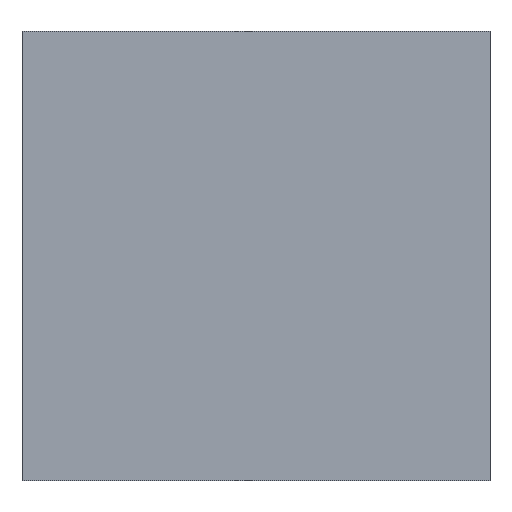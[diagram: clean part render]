
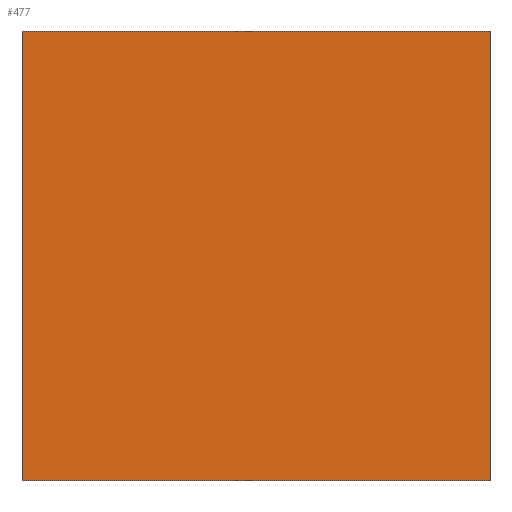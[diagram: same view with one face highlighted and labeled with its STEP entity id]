
A CAD part, top view. The second image highlights one B-rep face of the part: STEP entity #477.
In plain terms, the highlighted planar face has unit normal (0, 0, 1).
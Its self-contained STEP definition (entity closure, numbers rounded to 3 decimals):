
#70=FACE_OUTER_BOUND('',#99,.T.);
#99=EDGE_LOOP('',(#394,#395,#396,#397));
#140=LINE('',#774,#184);
#143=LINE('',#780,#187);
#146=LINE('',#786,#190);
#149=LINE('',#790,#193);
#184=VECTOR('',#648,10.);
#187=VECTOR('',#653,10.);
#190=VECTOR('',#658,10.);
#193=VECTOR('',#663,10.);
#228=VERTEX_POINT('',#771);
#229=VERTEX_POINT('',#773);
#231=VERTEX_POINT('',#779);
#233=VERTEX_POINT('',#785);
#284=EDGE_CURVE('',#229,#228,#140,.T.);
#287=EDGE_CURVE('',#231,#229,#143,.T.);
#290=EDGE_CURVE('',#233,#231,#146,.T.);
#293=EDGE_CURVE('',#228,#233,#149,.T.);
#394=ORIENTED_EDGE('',*,*,#293,.T.);
#395=ORIENTED_EDGE('',*,*,#290,.T.);
#396=ORIENTED_EDGE('',*,*,#287,.T.);
#397=ORIENTED_EDGE('',*,*,#284,.T.);
#428=PLANE('',#540);
#477=ADVANCED_FACE('',(#70),#428,.T.);
#540=AXIS2_PLACEMENT_3D('',#791,#664,#665);
#648=DIRECTION('',(1.,0.,0.));
#653=DIRECTION('',(0.,-1.,0.));
#658=DIRECTION('',(-1.,0.,0.));
#663=DIRECTION('',(0.,1.,0.));
#664=DIRECTION('center_axis',(0.,0.,1.));
#665=DIRECTION('ref_axis',(1.,0.,0.));
#771=CARTESIAN_POINT('',(250.,-240.,120.));
#773=CARTESIAN_POINT('',(-250.,-240.,120.));
#774=CARTESIAN_POINT('',(-250.,-240.,120.));
#779=CARTESIAN_POINT('',(-250.,240.,120.));
#780=CARTESIAN_POINT('',(-250.,240.,120.));
#785=CARTESIAN_POINT('',(250.,240.,120.));
#786=CARTESIAN_POINT('',(250.,240.,120.));
#790=CARTESIAN_POINT('',(250.,-240.,120.));
#791=CARTESIAN_POINT('Origin',(0.,0.,120.));
